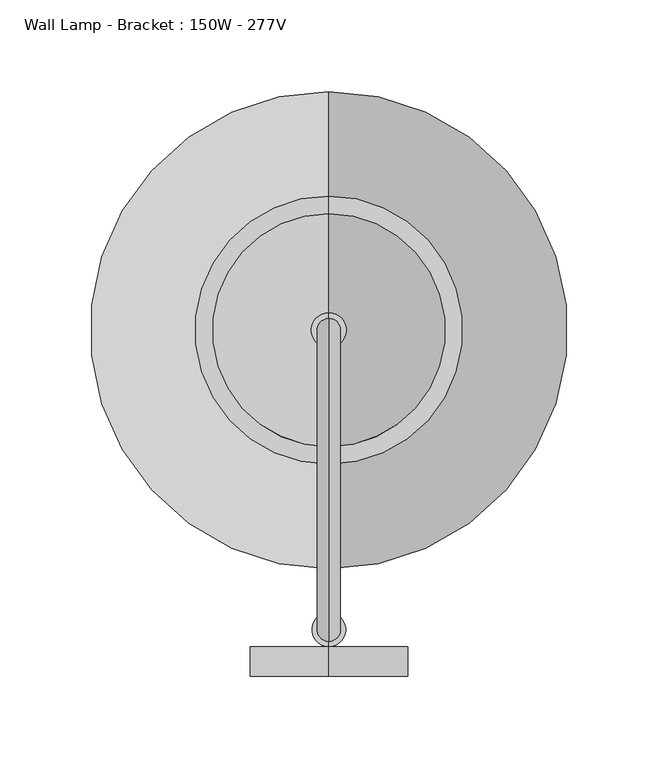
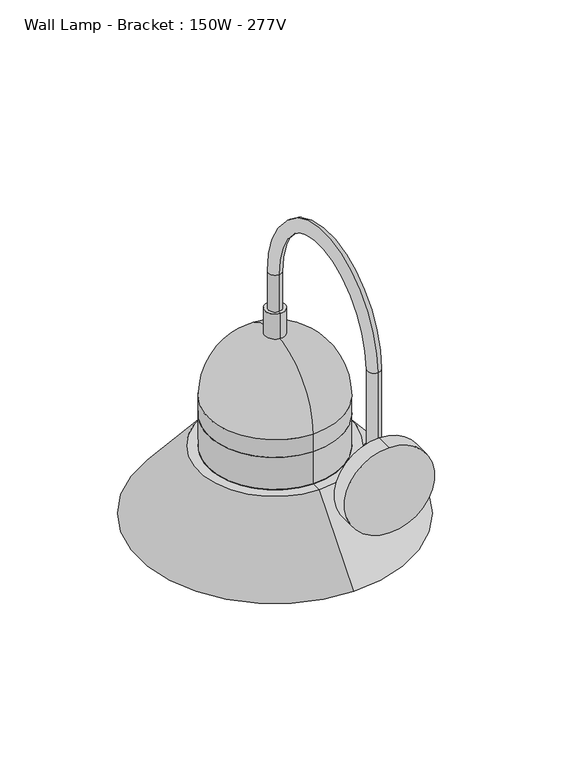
"""IFC4 building model written with IfcOpenShell, lengths in millimetres: light fixture geometry, Wall Lamp - Bracket : 150W - 277V."""

from ifc_helpers import new_model, si_unit, point, frame, frame_2d, origin, place, context, project, spatial, polyline, circle_curve, ellipse_curve, trimmed, segment, composite_curve, outline, extrude, source, transform, mapped, element, save
from ifc_brep_helpers import plane_surface, cylinder_surface, revolved_surface, advanced_brep


def wall_lamp_bracket_150w_277v_adb7de7a(model_context):
    return source(origin(), model_context, "Body", "SolidModel", [
        advanced_brep(
        [(-36.3556627, 169.0895413, 2413.7644247), (-36.3556627, 181.7895413, 2413.7644247), (-36.3556627, 181.7895413, 2334.6251468), (-36.3556627, 169.0895413, 2334.6251468), (-36.3556627, 345.2625, 2413.7644247), (-36.3556627, 332.5625, 2413.7644247), (-36.3556627, 345.2625, 2376.6250104), (-36.3556627, 332.5625, 2376.6250104), (-36.3556627, 166.2393793, 2334.6251468), (-36.3556627, 184.6397034, 2334.6251468), (-36.3556627, 184.6397034, 2307.1079598), (-36.3556627, 166.2393793, 2307.1079598), (-36.3556627, 175.4395413, 2297.9077977)],
        [
            (0, 1, circle_curve(frame((-36.3556627, 175.4395413, 2413.7644247), z_axis=(0.0, 0.0, -1.0), x_axis=(0.0, 1.0, 0.0)), 6.35)),
            (1, 2),
            (2, 3, circle_curve(frame((-36.3556627, 175.4395413, 2334.6251468), z_axis=(0.0, 0.0, 1.0), x_axis=(0.0, 1.0, 0.0)), 6.35)),
            (3, 0),
            (1, 0, circle_curve(frame((-36.3556627, 175.4395413, 2413.7644247), z_axis=(0.0, 0.0, -1.0), x_axis=(0.0, 1.0, 0.0)), 6.35)),
            (3, 2, circle_curve(frame((-36.3556627, 175.4395413, 2334.6251468), z_axis=(0.0, 0.0, 1.0), x_axis=(0.0, 1.0, 0.0)), 6.35)),
            (0, 4, circle_curve(frame((-36.3556627, 257.1760207, 2413.7644247), z_axis=(-1.0, 0.0, 0.0), x_axis=(0.0, -1.0, 0.0)), 88.0864793)),
            (4, 5, circle_curve(frame((-36.3556627, 338.9125, 2413.7644247), z_axis=(0.0, 0.0, 1.0), x_axis=(0.0, -1.0, 0.0)), 6.35)),
            (5, 1, circle_curve(frame((-36.3556627, 257.1760207, 2413.7644247), z_axis=(1.0, 0.0, 0.0), x_axis=(0.0, -1.0, 0.0)), 75.3864793)),
            (5, 4, circle_curve(frame((-36.3556627, 338.9125, 2413.7644247), z_axis=(0.0, 0.0, 1.0), x_axis=(0.0, -1.0, 0.0)), 6.35)),
            (6, 7, circle_curve(frame((-36.3556627, 338.9125, 2376.6250104), z_axis=(0.0, 0.0, -1.0), x_axis=(0.0, -1.0, 0.0)), 6.35)),
            (7, 6, circle_curve(frame((-36.3556627, 338.9125, 2376.6250104), z_axis=(0.0, 0.0, -1.0), x_axis=(0.0, -1.0, 0.0)), 6.35)),
            (4, 6),
            (7, 5),
            (8, 9, circle_curve(frame((-36.3556627, 175.4395413, 2334.6251468), z_axis=(0.0, 0.0, 1.0), x_axis=(0.0, -1.0, 0.0)), 9.2001621)),
            (9, 2),
            (3, 8),
            (9, 8, circle_curve(frame((-36.3556627, 175.4395413, 2334.6251468), z_axis=(0.0, 0.0, 1.0), x_axis=(0.0, -1.0, 0.0)), 9.2001621)),
            (10, 11, circle_curve(frame((-36.3556627, 175.4395413, 2307.1079598), z_axis=(0.0, 0.0, -1.0), x_axis=(0.0, -1.0, 0.0)), 9.2001621)),
            (11, 12, circle_curve(frame((-36.3556627, 175.4395413, 2307.1079598), z_axis=(1.0, 0.0, 0.0), x_axis=(0.0, -1.0, 0.0)), 9.2001621)),
            (12, 10, circle_curve(frame((-36.3556627, 175.4395413, 2307.1079598), z_axis=(1.0, 0.0, 0.0), x_axis=(0.0, 1.0, 0.0)), 9.2001621)),
            (11, 10, circle_curve(frame((-36.3556627, 175.4395413, 2307.1079598), z_axis=(0.0, 0.0, -1.0), x_axis=(0.0, -1.0, 0.0)), 9.2001621)),
            (8, 11),
            (10, 9),
        ],
        [
            cylinder_surface(frame((-36.3556627, 175.4395413, 2317.75), z_axis=(0.0, 0.0, -1.0), x_axis=(0.0, 1.0, 0.0)), 6.35),
            revolved_surface(trimmed(ellipse_curve(frame((-36.3556627, 175.4395413, 2413.7644247), z_axis=(0.0, 0.0, -1.0), x_axis=(0.0, 1.0, 0.0)), 6.35, 6.35), [point((-36.3556627, 169.0895413, 2413.7644247))], [point((-36.3556627, 181.7895413, 2413.7644247))], True, "CARTESIAN"), (-36.3556627, 257.1760207, 2413.7644247), (-1.0, 0.0, 0.0)),
            revolved_surface(trimmed(ellipse_curve(frame((-36.3556627, 175.4395413, 2413.7644247), z_axis=(0.0, 0.0, -1.0), x_axis=(0.0, 1.0, 0.0)), 6.35, 6.35), [point((-36.3556627, 181.7895413, 2413.7644247))], [point((-36.3556627, 169.0895413, 2413.7644247))], True, "CARTESIAN"), (-36.3556627, 257.1760207, 2413.7644247), (-1.0, 0.0, 0.0)),
            plane_surface(frame((-36.3556627, 332.5625, 2376.6250104), z_axis=(0.0, 0.0, -1.0), x_axis=(-1.0, 0.0, 0.0))),
            cylinder_surface(frame((-36.3556627, 338.9125, 2413.7644247), z_axis=(0.0, 0.0, 1.0), x_axis=(0.0, -1.0, 0.0)), 6.35),
            plane_surface(frame((-36.3556627, 175.4395413, 2334.6251468), z_axis=(0.0, 0.0, 1.0), x_axis=(0.0, -1.0, 0.0))),
            revolved_surface(trimmed(ellipse_curve(frame((-36.3556627, 175.4395413, 2307.1079598), z_axis=(-1.0, 0.0, 0.0), x_axis=(0.0, -1.0, 0.0)), 9.2001621, 9.2001621), [point((-36.3556627, 175.4395413, 2297.9077977))], [point((-36.3556627, 166.2393793, 2307.1079598))], True, "CARTESIAN"), (-36.3556627, 175.4395413, 2472.7469008), (0.0, 0.0, 1.0)),
            cylinder_surface(frame((-36.3556627, 175.4395413, 2472.7469008), z_axis=(0.0, 0.0, 1.0), x_axis=(0.0, -1.0, 0.0)), 9.2001621),
        ],
        [
            (0, [[1, 2, 3, 4]]),
            (0, [[5, -4, 6, -2]]),
            (1, [[-1, 7, 8, 9]]),
            (2, [[-5, -9, 10, -7]]),
            (3, [[11, 12]]),
            (4, [[-8, 13, -12, 14]]),
            (4, [[-10, -14, -11, -13]]),
            (5, [[15, 16, -6, 17]]),
            (5, [[18, -17, -3, -16]]),
            (6, [[19, 20, 21]]),
            (6, [[-20, 22, -21]]),
            (7, [[-15, 23, -19, 24]]),
            (7, [[-18, -24, -22, -23]]),
        ],
    ),
        extrude(outline(composite_curve([segment(trimmed(circle_curve(frame_2d((2307.1079598, -36.3556627)), 43.0116676), [point((2264.0962922, -36.3556627))], [point((2350.1196273, -36.3556627))], False, "CARTESIAN"), True, "CONTINUOUS"), segment(trimmed(circle_curve(frame_2d((2307.1079598, -36.3556627)), 43.0116676), [point((2350.1196273, -36.3556627))], [point((2264.0962922, -36.3556627))], False, "CARTESIAN"), True, "CONTINUOUS")], self_intersect=False)), frame((0.0, 150.0, 0.0), z_axis=(0.0, 1.0, 0.0), x_axis=(0.0, 0.0, 1.0)), (0.0, 0.0, 1.0), 16.2393793),
        advanced_brep(
        [(-36.3556627, 402.4125, 2237.5701357), (-36.3556627, 275.4125, 2237.5701357), (-36.3556627, 275.4125, 2197.1), (-36.3556627, 402.4125, 2197.1), (-36.3556627, 338.9125, 2237.5701357), (-36.3556627, 338.9125, 2133.6)],
        [
            (0, 1, circle_curve(frame((-36.3556627, 338.9125, 2237.5701357), z_axis=(0.0, 0.0, -1.0), x_axis=(0.0, -1.0, 0.0)), 63.5)),
            (1, 2),
            (2, 3, circle_curve(frame((-36.3556627, 338.9125, 2197.1), z_axis=(0.0, 0.0, 1.0), x_axis=(0.0, -1.0, 0.0)), 63.5)),
            (3, 0),
            (1, 0, circle_curve(frame((-36.3556627, 338.9125, 2237.5701357), z_axis=(0.0, 0.0, -1.0), x_axis=(0.0, -1.0, 0.0)), 63.5)),
            (3, 2, circle_curve(frame((-36.3556627, 338.9125, 2197.1), z_axis=(0.0, 0.0, 1.0), x_axis=(0.0, -1.0, 0.0)), 63.5)),
            (4, 1),
            (0, 4),
            (2, 5, circle_curve(frame((-36.3556627, 338.9125, 2197.1), z_axis=(1.0, 0.0, 0.0), x_axis=(0.0, -1.0, 0.0)), 63.5)),
            (5, 3, circle_curve(frame((-36.3556627, 338.9125, 2197.1), z_axis=(1.0, 0.0, 0.0), x_axis=(0.0, 1.0, 0.0)), 63.5)),
        ],
        [
            cylinder_surface(frame((-36.3556627, 338.9125, -914.4), z_axis=(0.0, 0.0, 1.0), x_axis=(0.0, -1.0, 0.0)), 63.5),
            plane_surface(frame((-36.3556627, 338.9125, 2237.5701357), z_axis=(0.0, 0.0, 1.0), x_axis=(0.0, -1.0, 0.0))),
            revolved_surface(trimmed(ellipse_curve(frame((-36.3556627, 338.9125, 2197.1), z_axis=(-1.0, 0.0, 0.0), x_axis=(0.0, -1.0, 0.0)), 63.5, 63.5), [point((-36.3556627, 338.9125, 2133.6))], [point((-36.3556627, 275.4125, 2197.1))], True, "CARTESIAN"), (-36.3556627, 338.9125, -914.4), (0.0, 0.0, 1.0)),
        ],
        [
            (0, [[1, 2, 3, 4]]),
            (0, [[5, -4, 6, -2]]),
            (1, [[7, -1, 8]]),
            (1, [[-8, -5, -7]]),
            (2, [[-3, 9, 10]]),
            (2, [[-6, -10, -9]]),
        ],
    ),
        advanced_brep(
        [(-36.3556627, 402.4125, 2269.8272766), (-36.3556627, 275.4125, 2269.8272766), (-36.3556627, 275.4125, 2237.5701357), (-36.3556627, 402.4125, 2237.5701357), (-36.3556627, 399.2375, 2269.8272766), (-36.3556627, 278.5875, 2269.8272766), (-36.3556627, 399.2375, 2234.3951357), (-36.3556627, 278.5875, 2234.3951357), (-36.3556627, 410.6669546, 2234.3951357), (-36.3556627, 267.1580454, 2234.3951357), (-36.3556627, 464.947628, 2169.5241129), (-36.3556627, 212.877372, 2169.5241129), (-36.3556627, 469.0875, 2169.5241129), (-36.3556627, 208.7375, 2169.5241129), (-36.3556627, 412.1501529, 2237.5701357), (-36.3556627, 265.6748471, 2237.5701357)],
        [
            (0, 1, circle_curve(frame((-36.3556627, 338.9125, 2269.8272766), z_axis=(0.0, 0.0, -1.0), x_axis=(0.0, -1.0, 0.0)), 63.5)),
            (1, 2),
            (2, 3, circle_curve(frame((-36.3556627, 338.9125, 2237.5701357), z_axis=(0.0, 0.0, 1.0), x_axis=(0.0, -1.0, 0.0)), 63.5)),
            (3, 0),
            (1, 0, circle_curve(frame((-36.3556627, 338.9125, 2269.8272766), z_axis=(0.0, 0.0, -1.0), x_axis=(0.0, -1.0, 0.0)), 63.5)),
            (3, 2, circle_curve(frame((-36.3556627, 338.9125, 2237.5701357), z_axis=(0.0, 0.0, 1.0), x_axis=(0.0, -1.0, 0.0)), 63.5)),
            (4, 5, circle_curve(frame((-36.3556627, 338.9125, 2269.8272766), z_axis=(0.0, 0.0, -1.0), x_axis=(0.0, -1.0, 0.0)), 60.325)),
            (5, 1),
            (0, 4),
            (5, 4, circle_curve(frame((-36.3556627, 338.9125, 2269.8272766), z_axis=(0.0, 0.0, -1.0), x_axis=(0.0, -1.0, 0.0)), 60.325)),
            (6, 7, circle_curve(frame((-36.3556627, 338.9125, 2234.3951357), z_axis=(0.0, 0.0, -1.0), x_axis=(0.0, -1.0, 0.0)), 60.325)),
            (7, 5),
            (4, 6),
            (7, 6, circle_curve(frame((-36.3556627, 338.9125, 2234.3951357), z_axis=(0.0, 0.0, -1.0), x_axis=(0.0, -1.0, 0.0)), 60.325)),
            (8, 9, circle_curve(frame((-36.3556627, 338.9125, 2234.3951357), z_axis=(0.0, 0.0, -1.0), x_axis=(0.0, -1.0, 0.0)), 71.7544546)),
            (9, 7),
            (6, 8),
            (9, 8, circle_curve(frame((-36.3556627, 338.9125, 2234.3951357), z_axis=(0.0, 0.0, -1.0), x_axis=(0.0, -1.0, 0.0)), 71.7544546)),
            (10, 11, circle_curve(frame((-36.3556627, 338.9125, 2169.5241129), z_axis=(0.0, 0.0, -1.0), x_axis=(0.0, -1.0, 0.0)), 126.035128)),
            (11, 9),
            (8, 10),
            (11, 10, circle_curve(frame((-36.3556627, 338.9125, 2169.5241129), z_axis=(0.0, 0.0, -1.0), x_axis=(0.0, -1.0, 0.0)), 126.035128)),
            (12, 13, circle_curve(frame((-36.3556627, 338.9125, 2169.5241129), z_axis=(0.0, 0.0, -1.0), x_axis=(0.0, -1.0, 0.0)), 130.175)),
            (13, 11),
            (10, 12),
            (13, 12, circle_curve(frame((-36.3556627, 338.9125, 2169.5241129), z_axis=(0.0, 0.0, -1.0), x_axis=(0.0, -1.0, 0.0)), 130.175)),
            (14, 15, circle_curve(frame((-36.3556627, 338.9125, 2237.5701357), z_axis=(0.0, 0.0, -1.0), x_axis=(0.0, -1.0, 0.0)), 73.2376529)),
            (15, 13),
            (12, 14),
            (15, 14, circle_curve(frame((-36.3556627, 338.9125, 2237.5701357), z_axis=(0.0, 0.0, -1.0), x_axis=(0.0, -1.0, 0.0)), 73.2376529)),
            (2, 15),
            (14, 3),
        ],
        [
            cylinder_surface(frame((-36.3556627, 338.9125, -914.4), z_axis=(0.0, 0.0, 1.0), x_axis=(0.0, -1.0, 0.0)), 63.5),
            plane_surface(frame((-36.3556627, 338.9125, 2269.8272766), z_axis=(0.0, 0.0, 1.0), x_axis=(0.0, -1.0, 0.0))),
            revolved_surface(polyline([(-36.3556627, 278.58750000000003, 2269.8272766), (-36.3556627, 278.58750000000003, 2234.3951357)]), (-36.3556627, 338.9125, -914.4), (0.0, 0.0, 1.0)),
            plane_surface(frame((-36.3556627, 338.9125, 2234.3951357), z_axis=(0.0, 0.0, -1.0), x_axis=(0.0, -1.0, 0.0))),
            revolved_surface(polyline([(-36.3556627, 267.1580454, 2234.3951357), (-36.3556627, 212.877372, 2169.5241129)]), (-36.3556627, 338.9125, -914.4), (0.0, 0.0, 1.0)),
            plane_surface(frame((-36.3556627, 338.9125, 2169.5241129), z_axis=(0.0, 0.0, -1.0), x_axis=(0.0, -1.0, 0.0))),
            revolved_surface(polyline([(-36.3556627, 208.7375, 2169.5241129), (-36.3556627, 265.6748471, 2237.5701357)]), (-36.3556627, 338.9125, -914.4), (0.0, 0.0, 1.0)),
            plane_surface(frame((-36.3556627, 338.9125, 2237.5701357), z_axis=(0.0, 0.0, 1.0), x_axis=(0.0, -1.0, 0.0))),
        ],
        [
            (0, [[1, 2, 3, 4]]),
            (0, [[5, -4, 6, -2]]),
            (1, [[7, 8, -1, 9]]),
            (1, [[10, -9, -5, -8]]),
            (2, [[11, 12, -7, 13]]),
            (2, [[14, -13, -10, -12]]),
            (3, [[15, 16, -11, 17]]),
            (3, [[18, -17, -14, -16]]),
            (4, [[19, 20, -15, 21]]),
            (4, [[22, -21, -18, -20]]),
            (5, [[23, 24, -19, 25]]),
            (5, [[26, -25, -22, -24]]),
            (6, [[27, 28, -23, 29]]),
            (6, [[30, -29, -26, -28]]),
            (7, [[-3, 31, -27, 32]]),
            (7, [[-6, -32, -30, -31]]),
        ],
    ),
        advanced_brep(
        [(-36.3556627, 402.4125, 2287.7818991), (-36.3556627, 275.4125, 2287.7818991), (-36.3556627, 275.4125, 2269.8272766), (-36.3556627, 402.4125, 2269.8272766), (-36.3556627, 338.9125, 2351.2818991), (-36.3556627, 338.9125, 2269.8272766)],
        [
            (0, 1, circle_curve(frame((-36.3556627, 338.9125, 2287.7818991), z_axis=(0.0, 0.0, -1.0), x_axis=(0.0, -1.0, 0.0)), 63.5)),
            (1, 2),
            (2, 3, circle_curve(frame((-36.3556627, 338.9125, 2269.8272766), z_axis=(0.0, 0.0, 1.0), x_axis=(0.0, -1.0, 0.0)), 63.5)),
            (3, 0),
            (1, 0, circle_curve(frame((-36.3556627, 338.9125, 2287.7818991), z_axis=(0.0, 0.0, -1.0), x_axis=(0.0, -1.0, 0.0)), 63.5)),
            (3, 2, circle_curve(frame((-36.3556627, 338.9125, 2269.8272766), z_axis=(0.0, 0.0, 1.0), x_axis=(0.0, -1.0, 0.0)), 63.5)),
            (4, 1, circle_curve(frame((-36.3556627, 338.9125, 2287.7818991), z_axis=(1.0, 0.0, 0.0), x_axis=(0.0, -1.0, 0.0)), 63.5)),
            (0, 4, circle_curve(frame((-36.3556627, 338.9125, 2287.7818991), z_axis=(1.0, 0.0, 0.0), x_axis=(0.0, 1.0, 0.0)), 63.5)),
            (2, 5),
            (5, 3),
        ],
        [
            cylinder_surface(frame((-36.3556627, 338.9125, -914.4), z_axis=(0.0, 0.0, 1.0), x_axis=(0.0, -1.0, 0.0)), 63.5),
            revolved_surface(trimmed(ellipse_curve(frame((-36.3556627, 338.9125, 2287.7818991), z_axis=(-1.0, 0.0, 0.0), x_axis=(0.0, -1.0, 0.0)), 63.5, 63.5), [point((-36.3556627, 275.4125, 2287.7818991))], [point((-36.3556627, 338.9125, 2351.2818991))], True, "CARTESIAN"), (-36.3556627, 338.9125, -914.4), (0.0, 0.0, 1.0)),
            plane_surface(frame((-36.3556627, 338.9125, 2269.8272766), z_axis=(0.0, 0.0, -1.0), x_axis=(0.0, -1.0, 0.0))),
        ],
        [
            (0, [[1, 2, 3, 4]]),
            (0, [[5, -4, 6, -2]]),
            (1, [[7, -1, 8]]),
            (1, [[-8, -5, -7]]),
            (2, [[-3, 9, 10]]),
            (2, [[-6, -10, -9]]),
        ],
    ),
        advanced_brep(
        [(-36.3556627, 348.4375, 2351.5511541), (-36.3556627, 329.3875, 2351.5511541), (-36.3556627, 338.9125, 2351.5511541), (-36.3556627, 348.4375, 2376.6250104), (-36.3556627, 329.3875, 2376.6250104), (-36.3556627, 338.9125, 2376.6250104)],
        [
            (0, 1, circle_curve(frame((-36.3556627, 338.9125, 2351.5511541), z_axis=(0.0, 0.0, -1.0), x_axis=(0.0, -1.0, 0.0)), 9.525)),
            (1, 2),
            (2, 0),
            (1, 0, circle_curve(frame((-36.3556627, 338.9125, 2351.5511541), z_axis=(0.0, 0.0, -1.0), x_axis=(0.0, -1.0, 0.0)), 9.525)),
            (3, 4, circle_curve(frame((-36.3556627, 338.9125, 2376.6250104), z_axis=(0.0, 0.0, -1.0), x_axis=(0.0, -1.0, 0.0)), 9.525)),
            (4, 1),
            (0, 3),
            (4, 3, circle_curve(frame((-36.3556627, 338.9125, 2376.6250104), z_axis=(0.0, 0.0, -1.0), x_axis=(0.0, -1.0, 0.0)), 9.525)),
            (5, 4),
            (3, 5),
        ],
        [
            plane_surface(frame((-36.3556627, 338.9125, 2351.5511541), z_axis=(0.0, 0.0, -1.0), x_axis=(0.0, -1.0, 0.0))),
            cylinder_surface(frame((-36.3556627, 338.9125, -914.4), z_axis=(0.0, 0.0, 1.0), x_axis=(0.0, -1.0, 0.0)), 9.525),
            plane_surface(frame((-36.3556627, 338.9125, 2376.6250104), z_axis=(0.0, 0.0, 1.0), x_axis=(0.0, -1.0, 0.0))),
        ],
        [
            (0, [[1, 2, 3]]),
            (0, [[4, -3, -2]]),
            (1, [[5, 6, -1, 7]]),
            (1, [[8, -7, -4, -6]]),
            (2, [[9, -5, 10]]),
            (2, [[-10, -8, -9]]),
        ],
    ),
    ])


if __name__ == "__main__":
    model = new_model("IFC4")
    model_context = context("Model", 3, world=origin())
    ifc_project = project(units=[si_unit("LENGTHUNIT", "METRE", prefix="MILLI")], contexts=[model_context])
    site = spatial("IfcSite", under=ifc_project)
    building = spatial("IfcBuilding", under=site)
    placement = place(None, origin())
    wall_lamp_bracket_150w_277v_shape = wall_lamp_bracket_150w_277v_adb7de7a(model_context)
    element("IfcLightFixture", 1, ObjectType="Wall Lamp - Bracket : 150W - 277V", at=placement, inside=building, context=model_context, shape_type="MappedRepresentation", body=[
        mapped(wall_lamp_bracket_150w_277v_shape, transform((0.0, 0.0, 0.0), x_axis=(1.0, 0.0, 0.0), y_axis=(0.0, 1.0, 0.0), z_axis=(0.0, 0.0, 1.0))),
    ])
    save(model, "model.ifc")
